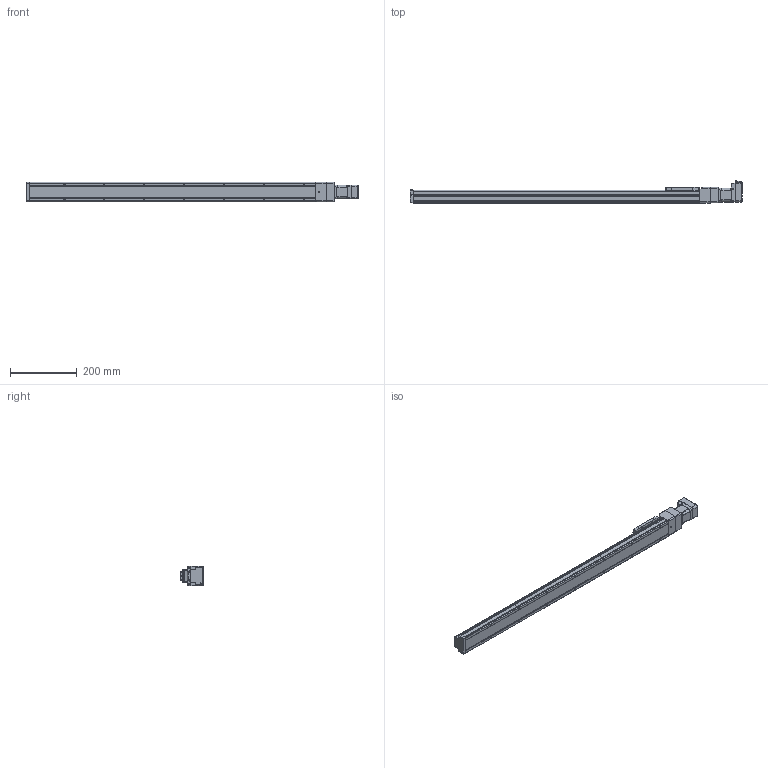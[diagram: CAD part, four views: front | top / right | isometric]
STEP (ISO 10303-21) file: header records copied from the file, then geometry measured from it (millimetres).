
FILE_DESCRIPTION (( 'STEP AP214' ), '1' );
FILE_NAME ('LEFS3(+)-25NM1Œû-750-17L.STEP', '2023-05-31T02:34:58', ( '' ), ( '' ), 'SwSTEP 2.0', 'SolidWorks 2019', '' );
FILE_SCHEMA (( 'AUTOMOTIVE_DESIGN' ));
Length unit declared in the file: millimetre
Products named in the file (5): LEFS3(+)-25NM1_TABLE; CM3(+)-17L50A; LEFS3(+)-25NM1仩_BODY_750; LEFS3(+)-25NM1口-750-17L; LEFS3(+)-25NM1_MOTOR Flange
Assembly tree (4 placements, depth 2):
  LEFS3(+)-25NM1口-750-17L
    LEFS3(+)-25NM1仩_BODY_750
    LEFS3(+)-25NM1_TABLE
    LEFS3(+)-25NM1_MOTOR Flange
    CM3(+)-17L50A
Bounding box: 997.3 x 66.75 x 58 mm (x, y, z)
Volume: 1936530.5 mm3; surface area: 238671 mm2
Topology: 5 solids, 5 shells, 1007 faces, 2602 edges, 1640 vertices
Faces by surface type: plane 513, cylinder 322, cone 83, torus 39, bspline 29, sphere 21
Entity records: 40824 total; most frequent: CARTESIAN_POINT 7440, ORIENTED_EDGE 5142, DIRECTION 4966, EDGE_CURVE 2571, AXIS2_PLACEMENT_3D 1678, VERTEX_POINT 1640, VECTOR 1610, LINE 1610
